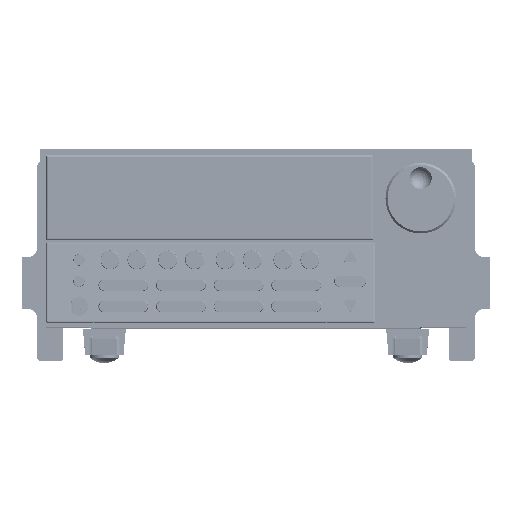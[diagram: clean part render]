
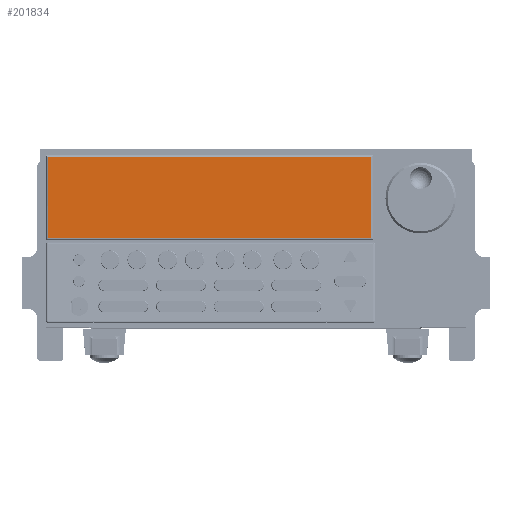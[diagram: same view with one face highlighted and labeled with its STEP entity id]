
A CAD part, top view. The second image highlights one B-rep face of the part: STEP entity #201834.
In plain terms, the highlighted planar face has unit normal (0, 0, 1).
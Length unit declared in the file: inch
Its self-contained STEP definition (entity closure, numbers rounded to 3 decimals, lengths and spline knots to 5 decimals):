
#201623=DIRECTION('',(1.,0.,0.));
#201624=VECTOR('',#201623,6.298);
#201625=CARTESIAN_POINT('',(0.035,0.035,0.093));
#201626=LINE('',#201625,#201624);
#201640=DIRECTION('',(0.,-1.,0.));
#201641=VECTOR('',#201640,1.578);
#201642=CARTESIAN_POINT('',(0.035,1.613,0.093));
#201643=LINE('',#201642,#201641);
#201666=DIRECTION('',(-1.,0.,0.));
#201667=VECTOR('',#201666,6.298);
#201668=CARTESIAN_POINT('',(6.333,1.613,0.093));
#201669=LINE('',#201668,#201667);
#201684=DIRECTION('',(0.,1.,0.));
#201685=VECTOR('',#201684,1.578);
#201686=CARTESIAN_POINT('',(6.333,0.035,0.093));
#201687=LINE('',#201686,#201685);
#201713=CARTESIAN_POINT('',(6.333,0.035,0.093));
#201714=CARTESIAN_POINT('',(6.333,1.613,0.093));
#201715=VERTEX_POINT('',#201713);
#201716=VERTEX_POINT('',#201714);
#201721=CARTESIAN_POINT('',(0.035,0.035,0.093));
#201722=VERTEX_POINT('',#201721);
#201725=CARTESIAN_POINT('',(0.035,1.613,0.093));
#201726=VERTEX_POINT('',#201725);
#201820=CARTESIAN_POINT('',(0.,0.,0.093));
#201821=DIRECTION('',(0.,0.,1.));
#201822=DIRECTION('',(1.,0.,0.));
#201823=AXIS2_PLACEMENT_3D('',#201820,#201821,#201822);
#201824=PLANE('',#201823);
#201826=ORIENTED_EDGE('',*,*,#201825,.F.);
#201828=ORIENTED_EDGE('',*,*,#201827,.F.);
#201830=ORIENTED_EDGE('',*,*,#201829,.F.);
#201831=ORIENTED_EDGE('',*,*,#201810,.F.);
#201832=EDGE_LOOP('',(#201826,#201828,#201830,#201831));
#201833=FACE_OUTER_BOUND('',#201832,.F.);
#201834=ADVANCED_FACE('',(#201833),#201824,.T.);
#201810=EDGE_CURVE('',#201722,#201715,#201626,.T.);
#201825=EDGE_CURVE('',#201726,#201722,#201643,.T.);
#201827=EDGE_CURVE('',#201716,#201726,#201669,.T.);
#201829=EDGE_CURVE('',#201715,#201716,#201687,.T.);
